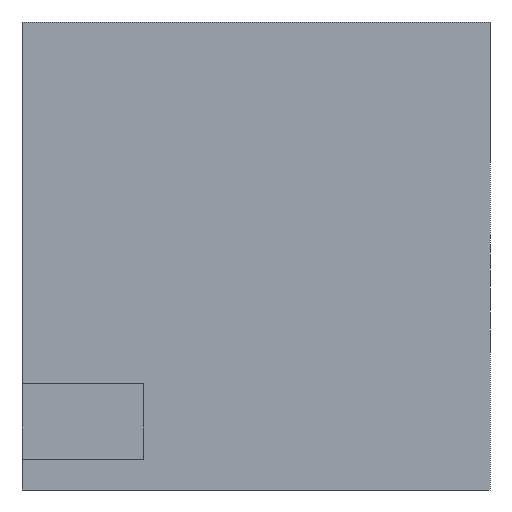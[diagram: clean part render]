
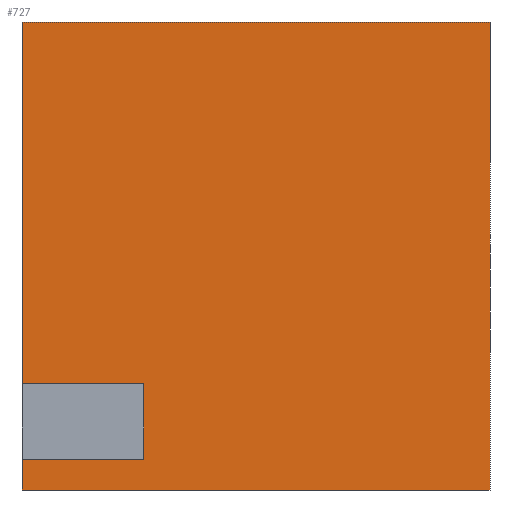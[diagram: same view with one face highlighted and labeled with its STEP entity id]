
A CAD part, left-side view. The second image highlights one B-rep face of the part: STEP entity #727.
In plain terms, the highlighted planar face has unit normal (-1, 0, 0).
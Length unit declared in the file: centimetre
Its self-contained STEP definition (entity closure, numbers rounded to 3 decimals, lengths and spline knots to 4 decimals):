
#7 = DIRECTION ( 'NONE',  ( 0., 0., -1. ) ) ;
#14 = VECTOR ( 'NONE', #37, 100. ) ;
#18 = VERTEX_POINT ( 'NONE', #181 ) ;
#22 = VERTEX_POINT ( 'NONE', #250 ) ;
#27 = LINE ( 'NONE', #111, #14 ) ;
#37 = DIRECTION ( 'NONE',  ( 0., 1., 0. ) ) ;
#39 = DIRECTION ( 'NONE',  ( 0., -1., 0. ) ) ;
#46 = EDGE_CURVE ( 'NONE', #490, #22, #626, .T. ) ;
#74 = DIRECTION ( 'NONE',  ( 0., 0., 1. ) ) ;
#90 = VECTOR ( 'NONE', #7, 100. ) ;
#111 = CARTESIAN_POINT ( 'NONE',  ( 0., 740.2487, 227.6865 ) ) ;
#117 = CARTESIAN_POINT ( 'NONE',  ( 0., 1000., 65.3754 ) ) ;
#119 = VECTOR ( 'NONE', #412, 100. ) ;
#138 = ORIENTED_EDGE ( 'NONE', *, *, #331, .F. ) ;
#146 = VERTEX_POINT ( 'NONE', #445 ) ;
#147 = LINE ( 'NONE', #316, #90 ) ;
#154 = EDGE_CURVE ( 'NONE', #418, #18, #781, .T. ) ;
#164 = FACE_OUTER_BOUND ( 'NONE', #298, .T. ) ;
#176 = VECTOR ( 'NONE', #74, 100. ) ;
#179 = EDGE_CURVE ( 'NONE', #474, #418, #516, .T. ) ;
#181 = CARTESIAN_POINT ( 'NONE',  ( 0., 740.2487, 227.6865 ) ) ;
#198 = LINE ( 'NONE', #592, #119 ) ;
#207 = VERTEX_POINT ( 'NONE', #579 ) ;
#250 = CARTESIAN_POINT ( 'NONE',  ( 0., 0., 1000. ) ) ;
#285 = ORIENTED_EDGE ( 'NONE', *, *, #658, .T. ) ;
#286 = VECTOR ( 'NONE', #833, 100. ) ;
#298 = EDGE_LOOP ( 'NONE', ( #393, #343, #339, #788, #708, #683, #285, #138 ) ) ;
#316 = CARTESIAN_POINT ( 'NONE',  ( 0., 0., 1000. ) ) ;
#322 = CARTESIAN_POINT ( 'NONE',  ( 0., 740.2487, 65.3754 ) ) ;
#331 = EDGE_CURVE ( 'NONE', #18, #354, #27, .T. ) ;
#339 = ORIENTED_EDGE ( 'NONE', *, *, #534, .T. ) ;
#343 = ORIENTED_EDGE ( 'NONE', *, *, #179, .F. ) ;
#354 = VERTEX_POINT ( 'NONE', #730 ) ;
#386 = CARTESIAN_POINT ( 'NONE',  ( 0., 740.2487, 65.3754 ) ) ;
#392 = VECTOR ( 'NONE', #39, 100. ) ;
#393 = ORIENTED_EDGE ( 'NONE', *, *, #154, .F. ) ;
#412 = DIRECTION ( 'NONE',  ( 0., 0., -1. ) ) ;
#418 = VERTEX_POINT ( 'NONE', #694 ) ;
#434 = CARTESIAN_POINT ( 'NONE',  ( 0., 1000., 1000. ) ) ;
#439 = CARTESIAN_POINT ( 'NONE',  ( 0., 1000., 0. ) ) ;
#443 = DIRECTION ( 'NONE',  ( 0., 0., -1. ) ) ;
#445 = CARTESIAN_POINT ( 'NONE',  ( 0., 1000., 0. ) ) ;
#458 = EDGE_CURVE ( 'NONE', #146, #207, #557, .T. ) ;
#474 = VERTEX_POINT ( 'NONE', #117 ) ;
#490 = VERTEX_POINT ( 'NONE', #499 ) ;
#499 = CARTESIAN_POINT ( 'NONE',  ( 0., 1000., 1000. ) ) ;
#516 = LINE ( 'NONE', #386, #286 ) ;
#532 = DIRECTION ( 'NONE',  ( 1., 0., 0. ) ) ;
#534 = EDGE_CURVE ( 'NONE', #474, #146, #584, .T. ) ;
#545 = EDGE_CURVE ( 'NONE', #22, #207, #147, .T. ) ;
#547 = PLANE ( 'NONE',  #609 ) ;
#557 = LINE ( 'NONE', #439, #392 ) ;
#579 = CARTESIAN_POINT ( 'NONE',  ( 0., 0., 0. ) ) ;
#584 = LINE ( 'NONE', #780, #731 ) ;
#592 = CARTESIAN_POINT ( 'NONE',  ( 0., 1000., 1000. ) ) ;
#609 = AXIS2_PLACEMENT_3D ( 'NONE', #729, #532, #663 ) ;
#626 = LINE ( 'NONE', #434, #693 ) ;
#658 = EDGE_CURVE ( 'NONE', #490, #354, #198, .T. ) ;
#663 = DIRECTION ( 'NONE',  ( 0., 0., -1. ) ) ;
#683 = ORIENTED_EDGE ( 'NONE', *, *, #46, .F. ) ;
#693 = VECTOR ( 'NONE', #829, 100. ) ;
#694 = CARTESIAN_POINT ( 'NONE',  ( 0., 740.2487, 65.3754 ) ) ;
#708 = ORIENTED_EDGE ( 'NONE', *, *, #545, .F. ) ;
#727 = ADVANCED_FACE ( 'NONE', ( #164 ), #547, .F. ) ;
#729 = CARTESIAN_POINT ( 'NONE',  ( 0., 1000., 1000. ) ) ;
#730 = CARTESIAN_POINT ( 'NONE',  ( 0., 1000., 227.6865 ) ) ;
#731 = VECTOR ( 'NONE', #443, 100. ) ;
#780 = CARTESIAN_POINT ( 'NONE',  ( 0., 1000., 1000. ) ) ;
#781 = LINE ( 'NONE', #322, #176 ) ;
#788 = ORIENTED_EDGE ( 'NONE', *, *, #458, .T. ) ;
#829 = DIRECTION ( 'NONE',  ( 0., -1., 0. ) ) ;
#833 = DIRECTION ( 'NONE',  ( 0., -1., 0. ) ) ;
